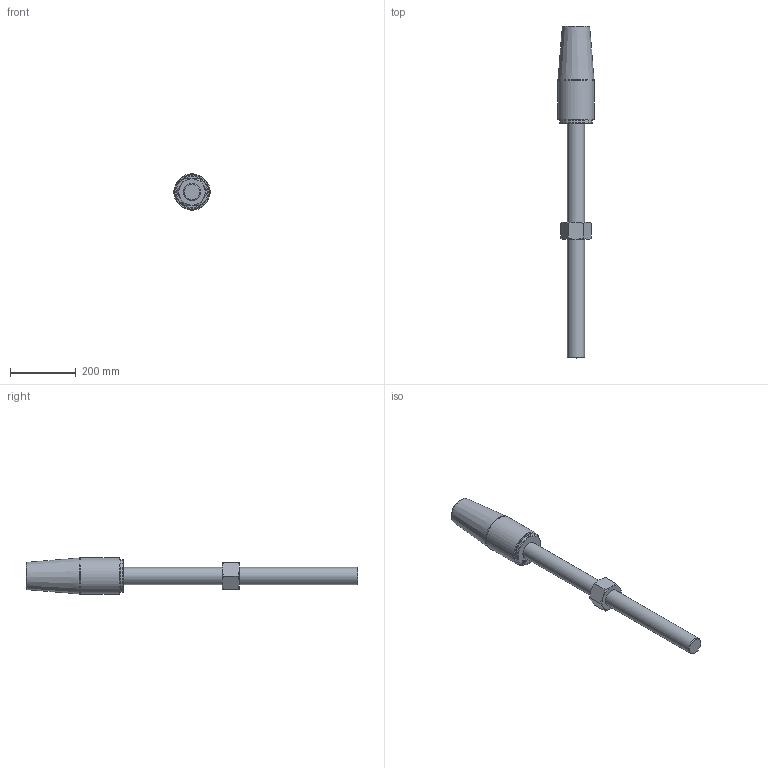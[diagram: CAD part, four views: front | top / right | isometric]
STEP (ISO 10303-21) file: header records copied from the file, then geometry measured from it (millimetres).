
FILE_DESCRIPTION(/* description */ (''),/* implementation_level */ '2;1');
FILE_NAME(/* name */ 'D:\Clienti\Redaelli (inventor)\CYB\STEP\Arrangement\CYB036 52 061 0.stp',/* time_stamp */ '2021-05-08T14:36:45+02:00',/* author */ ('fabri'),/* organization */ (''),/* preprocessor_version */ 'ST-DEVELOPER v16.13',/* originating_system */ 'Autodesk Inventor 2018',/* authorisation */ '');
FILE_SCHEMA (('AUTOMOTIVE_DESIGN { 1 0 10303 214 3 1 1 }'));
Length unit declared in the file: millimetre
Products named in the file (5): CYB012-52-061-0; RNT036 41 051 0_ROD; UNI 5587 - M52 x 3; CCY021-51-061-0_BUSH; CCY021-51-061-0
Assembly tree (4 placements, depth 2):
  CYB012-52-061-0
    RNT036 41 051 0_ROD
    UNI 5587 - M52 x 3
    CCY021-51-061-0_BUSH
    CCY021-51-061-0
Bounding box: 109.64 x 1007 x 109.64 mm (x, y, z)
Volume: 4538818.6 mm3; surface area: 317718.9 mm2
Topology: 4 solids, 4 shells, 760 faces, 2045 edges, 1356 vertices
Faces by surface type: bspline 428, plane 301, cone 19, cylinder 8, torus 4
Full cylindrical faces by diameter (mm): 48.752 x2, 52 x1, 54 x1, 74 x1, 80 x1, 100 x1, 110 x1
Entity records: 25943 total; most frequent: CARTESIAN_POINT 9776, ORIENTED_EDGE 4050, EDGE_CURVE 2025, DIRECTION 1869, VERTEX_POINT 1355, LINE 1105, VECTOR 1105, B_SPLINE_CURVE_WITH_KNOTS 854
